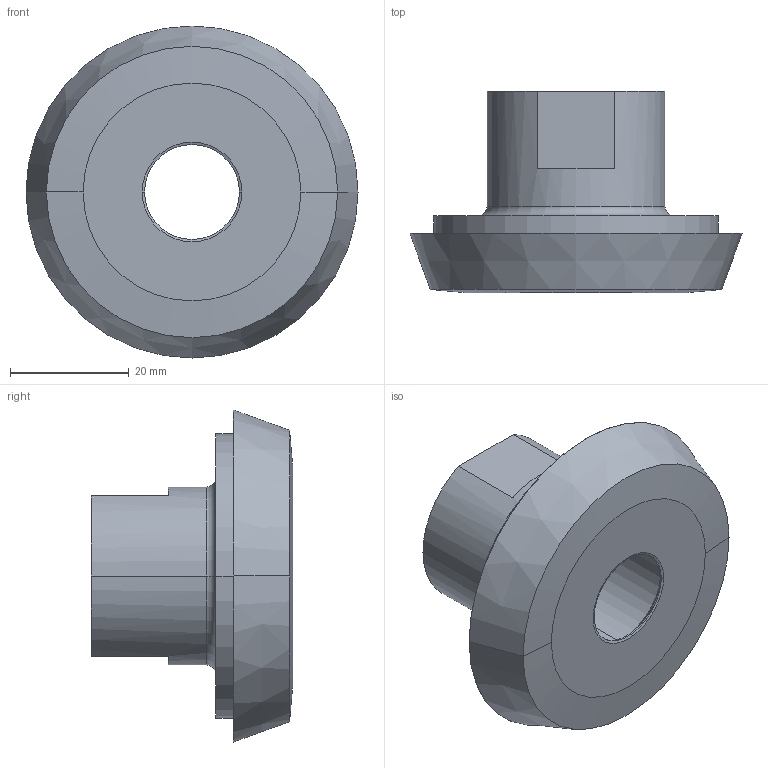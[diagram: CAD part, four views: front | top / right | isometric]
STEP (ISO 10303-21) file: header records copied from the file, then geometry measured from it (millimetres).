
FILE_DESCRIPTION((''),'2;1');
FILE_NAME('KMM020170102','2013-06-26T',('moal'),(''),'PRO/ENGINEER BY PARAMETRIC TECHNOLOGY CORPORATION, 2005110','PRO/ENGINEER BY PARAMETRIC TECHNOLOGY CORPORATION, 2005110','');
FILE_SCHEMA(('CONFIG_CONTROL_DESIGN'));
Length unit declared in the file: millimetre
Products named in the file (1): KMM020170102
Bounding box: 56 x 34 x 56 mm (x, y, z)
Volume: 30719 mm3; surface area: 9983 mm2
Topology: 1 solids, 1 shells, 31 faces, 66 edges, 40 vertices
Faces by surface type: cone 10, cylinder 10, plane 9, torus 2
Entity records: 884 total; most frequent: DIRECTION 166, CARTESIAN_POINT 137, ORIENTED_EDGE 132, AXIS2_PLACEMENT_3D 69, EDGE_CURVE 66, VERTEX_POINT 40, CIRCLE 38, EDGE_LOOP 36
